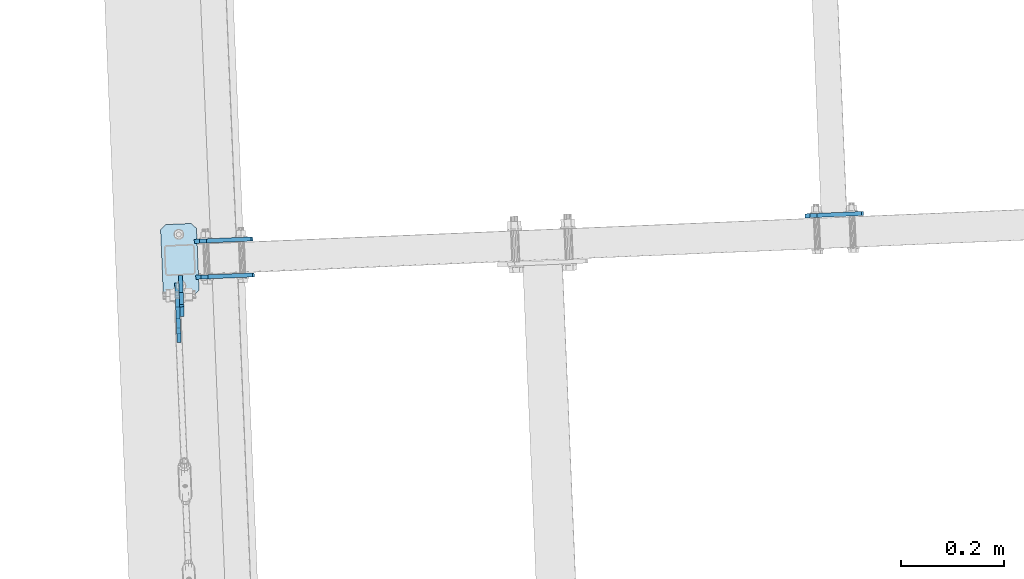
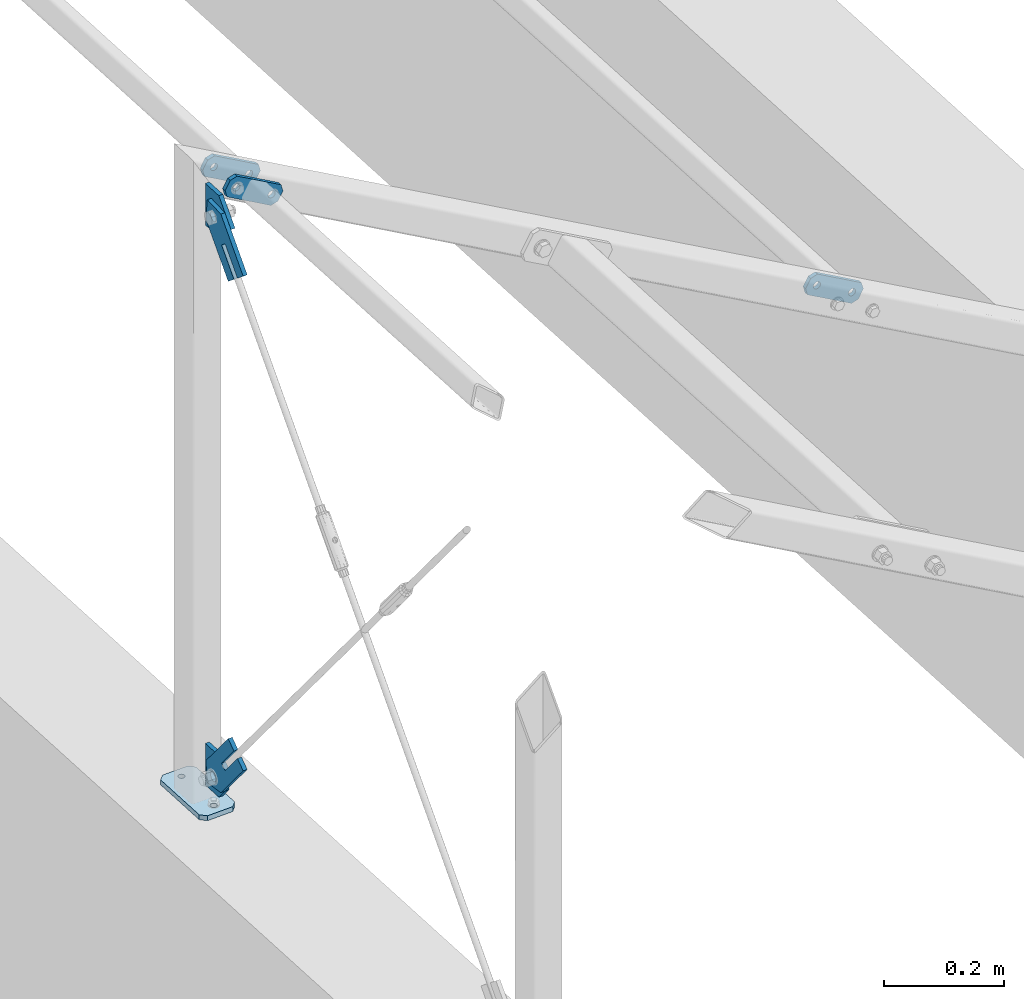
# One storey, part 46 of 288: 8 plates, 35 openings.
"""IFC2X3 building model written with IfcOpenShell, lengths in millimetres."""

from ifc_helpers import new_model, entity, si_unit, converted_unit, point, frame, frame_2d, origin, origin_with_axes, origin_2d_with_axis, place, context, project, spatial, polyline, circle_curve, line_curve, trimmed, segment, composite_curve, circle, outline, extrude, material, layer, layer_set, element, save


model = new_model("IFC2X3")

# Units and contexts
model_context = context("Model", 3, precision=1e-09, world=origin_with_axes())
ifc_project = project(units=[si_unit("LENGTHUNIT", "METRE", prefix="MILLI"), si_unit("AREAUNIT", "SQUARE_METRE"), si_unit("VOLUMEUNIT", "CUBIC_METRE"), converted_unit("PLANEANGLEUNIT", "DEGREE", entity("IfcPlaneAngleMeasure", 0.01745329), si_unit("PLANEANGLEUNIT", "RADIAN"), dimensions=[0, 0, 0, 0, 0, 0, 0])], contexts=[model_context])

# Site, building, storey
site_placement = place(None, origin_with_axes())
site = spatial("IfcSite", under=ifc_project, at=site_placement, Name="Remont ?wietlik?w nad MC w NCPP w Opolu", CompositionType="ELEMENT")
building_placement = place(site_placement, origin_with_axes())
building = spatial("IfcBuilding", under=site, at=building_placement, Name="Konstrukcja 1", CompositionType="ELEMENT")
storey_placement = place(building_placement, origin_with_axes())
storey = spatial("IfcBuildingStorey", under=building, at=storey_placement, Name="Default Storey", CompositionType="ELEMENT", Elevation=0.0)

# Plate, openings
ifc_material = material(Name="S235")
ifc_layer_1 = layer(ifc_material, 8.0)
ifc_layer_set_1 = layer_set([ifc_layer_1], Name="S235")
plate_1_placement = place(None, frame((-439.674445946, 8131.315570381, 1232.680042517), z_axis=(-0.041662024, 0.999131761, 1.7472e-05), x_axis=(0.499566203, 0.020815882, 0.866025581)))
plate_1 = element("IfcPlate", 1, at=plate_1_placement, inside=storey, material=ifc_layer_set_1, Name="-", ObjectType="-", context=model_context, shape_type="SweptSolid", body=[
    extrude(outline(polyline([(0.0, 0.0), (40.0, 0.0), (40.0, 120.0), (0.0, 120.0), (0.0, 0.0)])), origin_with_axes(), (0.0, 0.0, 1.0), 8.0),
])
opening_1_placement = place(plate_1_placement, frame((0.0, 0.0, -0.01), z_axis=(0.0, 0.0, 1.0), x_axis=(1.0, 0.0, 0.0)))
element("IfcOpeningElement", 2, at=opening_1_placement, cuts=plate_1, ObjectType="Opening", context=model_context, shape_type="SweptSolid", body=[
    extrude(outline(composite_curve([segment(trimmed(line_curve((40.0, 0.0), (0.0, 1.0), 10.0), [point((40.0, 0.0))], [point((40.0, 10.0))], True, "CARTESIAN"), True, "CONTINUOUS"), segment(trimmed(circle_curve(frame_2d((30.0, 10.0), x_axis=(-1.0, 0.0)), 10.0), [point((40.0, 10.0))], [point((30.0, 0.0))], False, "CARTESIAN"), True, "CONTINUOUS"), segment(trimmed(line_curve((30.0, 0.0), (1.0, 0.0), 10.0), [point((30.0, 0.0))], [point((40.0, 0.0))], True, "CARTESIAN"), True, "CONTINUOUS")], self_intersect=False)), origin(), (0.0, 0.0, 1.0), 8.02),
])
opening_2_placement = place(plate_1_placement, frame((0.0, 0.0, -0.01), z_axis=(0.0, 0.0, 1.0), x_axis=(1.0, 0.0, 0.0)))
element("IfcOpeningElement", 3, at=opening_2_placement, cuts=plate_1, ObjectType="Opening", context=model_context, shape_type="SweptSolid", body=[
    extrude(outline(composite_curve([segment(trimmed(line_curve((0.0, 0.0), (1.0, 0.0), 10.0), [point((0.0, 0.0))], [point((10.0, 0.0))], True, "CARTESIAN"), True, "CONTINUOUS"), segment(trimmed(circle_curve(frame_2d((10.0, 10.0), x_axis=(-1.0, 0.0)), 10.0), [point((10.0, 0.0))], [point((0.0, 10.0))], False, "CARTESIAN"), True, "CONTINUOUS"), segment(trimmed(line_curve((0.0, 10.0), (0.0, -1.0), 10.0), [point((0.0, 10.0))], [point((0.0, 0.0))], True, "CARTESIAN"), True, "CONTINUOUS")], self_intersect=False)), origin(), (0.0, 0.0, 1.0), 8.02),
])
opening_3_placement = place(plate_1_placement, frame((0.0, 0.0, -0.01), z_axis=(0.0, 0.0, 1.0), x_axis=(1.0, 0.0, 0.0)))
element("IfcOpeningElement", 4, at=opening_3_placement, cuts=plate_1, ObjectType="Opening", context=model_context, shape_type="SweptSolid", body=[
    extrude(outline(composite_curve([segment(trimmed(line_curve((40.0, 120.0), (-1.0, 0.0), 10.0), [point((40.0, 120.0))], [point((30.0, 120.0))], True, "CARTESIAN"), True, "CONTINUOUS"), segment(trimmed(circle_curve(frame_2d((30.0, 110.0), x_axis=(-1.0, 0.0)), 10.0), [point((30.0, 120.0))], [point((40.0, 110.0))], False, "CARTESIAN"), True, "CONTINUOUS"), segment(trimmed(line_curve((40.0, 110.0), (0.0, 1.0), 10.0), [point((40.0, 110.0))], [point((40.0, 120.0))], True, "CARTESIAN"), True, "CONTINUOUS")], self_intersect=False)), origin(), (0.0, 0.0, 1.0), 8.02),
])
opening_4_placement = place(plate_1_placement, frame((0.0, 0.0, -0.01), z_axis=(0.0, 0.0, 1.0), x_axis=(1.0, 0.0, 0.0)))
element("IfcOpeningElement", 5, at=opening_4_placement, cuts=plate_1, ObjectType="Opening", context=model_context, shape_type="SweptSolid", body=[
    extrude(outline(composite_curve([segment(trimmed(line_curve((0.0, 120.0), (0.0, -1.0), 10.0), [point((0.0, 120.0))], [point((0.0, 110.0))], True, "CARTESIAN"), True, "CONTINUOUS"), segment(trimmed(circle_curve(frame_2d((10.0, 110.0), x_axis=(-1.0, 0.0)), 10.0), [point((0.0, 110.0))], [point((10.0, 120.0))], False, "CARTESIAN"), True, "CONTINUOUS"), segment(trimmed(line_curve((10.0, 120.0), (-1.0, 0.0), 10.0), [point((10.0, 120.0))], [point((0.0, 120.0))], True, "CARTESIAN"), True, "CONTINUOUS")], self_intersect=False)), origin(), (0.0, 0.0, 1.0), 8.02),
])
opening_5_placement = place(plate_1_placement, frame((12.999, 20.0, 8.5), z_axis=(0.0, 0.0, 1.0), x_axis=(1.0, 0.0, 0.0)))
element("IfcOpeningElement", 6, at=opening_5_placement, cuts=plate_1, ObjectType="Opening", context=model_context, shape_type="SweptSolid", body=[
    extrude(circle(Radius=7.001, at=frame_2d((7.001, 0.0), x_axis=(1.0, 0.0))), origin(), (0.0, 0.0, -1.0), 9.0),
])
opening_6_placement = place(plate_1_placement, frame((12.999, 100.0, 8.5), z_axis=(0.0, 0.0, 1.0), x_axis=(1.0, 0.0, 0.0)))
element("IfcOpeningElement", 7, at=opening_6_placement, cuts=plate_1, ObjectType="Opening", context=model_context, shape_type="SweptSolid", body=[
    extrude(circle(Radius=7.001, at=frame_2d((7.001, 0.0), x_axis=(1.0, 0.0))), origin(), (0.0, 0.0, -1.0), 9.0),
])

plate_2_placement = place(None, frame((748.024592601, 8180.852517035, 546.390618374), z_axis=(-0.041662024, 0.999131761, 1.7472e-05), x_axis=(0.499566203, 0.020815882, 0.866025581)))
plate_2 = element("IfcPlate", 8, at=plate_2_placement, inside=storey, material=ifc_layer_set_1, Name="-", ObjectType="-", context=model_context, shape_type="SweptSolid", body=[
    extrude(outline(polyline([(0.0, 0.0), (40.0, 0.0), (40.0, 120.0), (0.0, 120.0), (0.0, 0.0)])), origin_with_axes(), (0.0, 0.0, 1.0), 8.0),
])
opening_7_placement = place(plate_2_placement, frame((0.0, 0.0, -0.01), z_axis=(0.0, 0.0, 1.0), x_axis=(1.0, 0.0, 0.0)))
element("IfcOpeningElement", 9, at=opening_7_placement, cuts=plate_2, ObjectType="Opening", context=model_context, shape_type="SweptSolid", body=[
    extrude(outline(composite_curve([segment(trimmed(line_curve((40.0, 0.0), (0.0, 1.0), 10.0), [point((40.0, 0.0))], [point((40.0, 10.0))], True, "CARTESIAN"), True, "CONTINUOUS"), segment(trimmed(circle_curve(frame_2d((30.0, 10.0), x_axis=(-1.0, 0.0)), 10.0), [point((40.0, 10.0))], [point((30.0, 0.0))], False, "CARTESIAN"), True, "CONTINUOUS"), segment(trimmed(line_curve((30.0, 0.0), (1.0, 0.0), 10.0), [point((30.0, 0.0))], [point((40.0, 0.0))], True, "CARTESIAN"), True, "CONTINUOUS")], self_intersect=False)), origin(), (0.0, 0.0, 1.0), 8.02),
])
opening_8_placement = place(plate_2_placement, frame((0.0, 0.0, -0.01), z_axis=(0.0, 0.0, 1.0), x_axis=(1.0, 0.0, 0.0)))
element("IfcOpeningElement", 10, at=opening_8_placement, cuts=plate_2, ObjectType="Opening", context=model_context, shape_type="SweptSolid", body=[
    extrude(outline(composite_curve([segment(trimmed(line_curve((0.0, 0.0), (1.0, 0.0), 10.0), [point((0.0, 0.0))], [point((10.0, 0.0))], True, "CARTESIAN"), True, "CONTINUOUS"), segment(trimmed(circle_curve(frame_2d((10.0, 10.0), x_axis=(-1.0, 0.0)), 10.0), [point((10.0, 0.0))], [point((0.0, 10.0))], False, "CARTESIAN"), True, "CONTINUOUS"), segment(trimmed(line_curve((0.0, 10.0), (0.0, -1.0), 10.0), [point((0.0, 10.0))], [point((0.0, 0.0))], True, "CARTESIAN"), True, "CONTINUOUS")], self_intersect=False)), origin(), (0.0, 0.0, 1.0), 8.02),
])
opening_9_placement = place(plate_2_placement, frame((0.0, 0.0, -0.01), z_axis=(0.0, 0.0, 1.0), x_axis=(1.0, 0.0, 0.0)))
element("IfcOpeningElement", 11, at=opening_9_placement, cuts=plate_2, ObjectType="Opening", context=model_context, shape_type="SweptSolid", body=[
    extrude(outline(composite_curve([segment(trimmed(line_curve((40.0, 120.0), (-1.0, 0.0), 10.0), [point((40.0, 120.0))], [point((30.0, 120.0))], True, "CARTESIAN"), True, "CONTINUOUS"), segment(trimmed(circle_curve(frame_2d((30.0, 110.0), x_axis=(-1.0, 0.0)), 10.0), [point((30.0, 120.0))], [point((40.0, 110.0))], False, "CARTESIAN"), True, "CONTINUOUS"), segment(trimmed(line_curve((40.0, 110.0), (0.0, 1.0), 10.0), [point((40.0, 110.0))], [point((40.0, 120.0))], True, "CARTESIAN"), True, "CONTINUOUS")], self_intersect=False)), origin(), (0.0, 0.0, 1.0), 8.02),
])
opening_10_placement = place(plate_2_placement, frame((0.0, 0.0, -0.01), z_axis=(0.0, 0.0, 1.0), x_axis=(1.0, 0.0, 0.0)))
element("IfcOpeningElement", 12, at=opening_10_placement, cuts=plate_2, ObjectType="Opening", context=model_context, shape_type="SweptSolid", body=[
    extrude(outline(composite_curve([segment(trimmed(line_curve((0.0, 120.0), (0.0, -1.0), 10.0), [point((0.0, 120.0))], [point((0.0, 110.0))], True, "CARTESIAN"), True, "CONTINUOUS"), segment(trimmed(circle_curve(frame_2d((10.0, 110.0), x_axis=(-1.0, 0.0)), 10.0), [point((0.0, 110.0))], [point((10.0, 120.0))], False, "CARTESIAN"), True, "CONTINUOUS"), segment(trimmed(line_curve((10.0, 120.0), (-1.0, 0.0), 10.0), [point((10.0, 120.0))], [point((0.0, 120.0))], True, "CARTESIAN"), True, "CONTINUOUS")], self_intersect=False)), origin(), (0.0, 0.0, 1.0), 8.02),
])
opening_11_placement = place(plate_2_placement, frame((19.99842578, 27.001033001, 8.499903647), z_axis=(-2.0054e-05, 4.2e-07, 1.0), x_axis=(1.0, 0.0, 2.0054e-05)))
element("IfcOpeningElement", 13, at=opening_11_placement, cuts=plate_2, ObjectType="Opening", context=model_context, shape_type="SweptSolid", body=[
    extrude(circle(Radius=7.001, at=frame_2d((-4e-09, -7.001), x_axis=(1.0, 0.0))), origin(), (0.0, 0.0, -1.0), 9.000033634),
])
opening_12_placement = place(plate_2_placement, frame((19.998425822, 107.001033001, 8.499870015), z_axis=(-2.0054e-05, 4.2e-07, 1.0), x_axis=(1.0, 0.0, 2.0054e-05)))
element("IfcOpeningElement", 14, at=opening_12_placement, cuts=plate_2, ObjectType="Opening", context=model_context, shape_type="SweptSolid", body=[
    extrude(circle(Radius=7.001, at=frame_2d((-4e-09, -7.001), x_axis=(1.0, 0.0))), origin(), (0.0, 0.0, -1.0), 9.000033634),
])

ifc_layer_2 = layer(ifc_material, 10.0)
ifc_layer_set_2 = layer_set([ifc_layer_2], Name="S235")
plate_3_placement = place(None, frame((-425.02917401, 8030.838177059, 10.000000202), z_axis=(0.0, 0.0, -1.0), x_axis=(-0.999131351, -0.041671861, 0.0)))
plate_3 = element("IfcPlate", 15, at=plate_3_placement, inside=storey, material=ifc_layer_set_2, Name="Baseplate", ObjectType="Baseplate", context=model_context, shape_type="SweptSolid", body=[
    extrude(outline(polyline([(0.0, 0.0), (70.0, 0.0), (70.0, 140.0), (0.0, 140.0), (0.0, 0.0)])), origin_with_axes(), (0.0, 0.0, 1.0), 10.0),
])
opening_13_placement = place(plate_3_placement, frame((0.0, 0.0, -0.01), z_axis=(0.0, 0.0, 1.0), x_axis=(1.0, 0.0, 0.0)))
element("IfcOpeningElement", 16, at=opening_13_placement, cuts=plate_3, ObjectType="Opening", context=model_context, shape_type="SweptSolid", body=[
    extrude(outline(composite_curve([segment(trimmed(line_curve((70.0, 0.0), (0.0, 1.0), 10.0), [point((70.0, 0.0))], [point((70.0, 10.0))], True, "CARTESIAN"), True, "CONTINUOUS"), segment(trimmed(circle_curve(frame_2d((60.0, 10.0), x_axis=(-1.0, 0.0)), 10.0), [point((70.0, 10.0))], [point((60.0, 0.0))], False, "CARTESIAN"), True, "CONTINUOUS"), segment(trimmed(line_curve((60.0, 0.0), (1.0, 0.0), 10.0), [point((60.0, 0.0))], [point((70.0, 0.0))], True, "CARTESIAN"), True, "CONTINUOUS")], self_intersect=False)), origin(), (0.0, 0.0, 1.0), 10.02),
])
opening_14_placement = place(plate_3_placement, frame((0.0, 0.0, -0.01), z_axis=(0.0, 0.0, 1.0), x_axis=(1.0, 0.0, 0.0)))
element("IfcOpeningElement", 17, at=opening_14_placement, cuts=plate_3, ObjectType="Opening", context=model_context, shape_type="SweptSolid", body=[
    extrude(outline(composite_curve([segment(trimmed(line_curve((0.0, 0.0), (1.0, 0.0), 10.0), [point((0.0, 0.0))], [point((10.0, 0.0))], True, "CARTESIAN"), True, "CONTINUOUS"), segment(trimmed(circle_curve(frame_2d((10.0, 10.0), x_axis=(-1.0, 0.0)), 10.0), [point((10.0, 0.0))], [point((0.0, 10.0))], False, "CARTESIAN"), True, "CONTINUOUS"), segment(trimmed(line_curve((0.0, 10.0), (0.0, -1.0), 10.0), [point((0.0, 10.0))], [point((0.0, 0.0))], True, "CARTESIAN"), True, "CONTINUOUS")], self_intersect=False)), origin(), (0.0, 0.0, 1.0), 10.02),
])
opening_15_placement = place(plate_3_placement, frame((0.0, 0.0, -0.01), z_axis=(0.0, 0.0, 1.0), x_axis=(1.0, 0.0, 0.0)))
element("IfcOpeningElement", 18, at=opening_15_placement, cuts=plate_3, ObjectType="Opening", context=model_context, shape_type="SweptSolid", body=[
    extrude(outline(composite_curve([segment(trimmed(line_curve((70.0, 140.0), (-1.0, 0.0), 10.0), [point((70.0, 140.0))], [point((60.0, 140.0))], True, "CARTESIAN"), True, "CONTINUOUS"), segment(trimmed(circle_curve(frame_2d((60.0, 130.0), x_axis=(-1.0, 0.0)), 10.0), [point((60.0, 140.0))], [point((70.0, 130.0))], False, "CARTESIAN"), True, "CONTINUOUS"), segment(trimmed(line_curve((70.0, 130.0), (0.0, 1.0), 10.0), [point((70.0, 130.0))], [point((70.0, 140.0))], True, "CARTESIAN"), True, "CONTINUOUS")], self_intersect=False)), origin(), (0.0, 0.0, 1.0), 10.02),
])
opening_16_placement = place(plate_3_placement, frame((0.0, 0.0, -0.01), z_axis=(0.0, 0.0, 1.0), x_axis=(1.0, 0.0, 0.0)))
element("IfcOpeningElement", 19, at=opening_16_placement, cuts=plate_3, ObjectType="Opening", context=model_context, shape_type="SweptSolid", body=[
    extrude(outline(composite_curve([segment(trimmed(line_curve((0.0, 140.0), (0.0, -1.0), 10.0), [point((0.0, 140.0))], [point((0.0, 130.0))], True, "CARTESIAN"), True, "CONTINUOUS"), segment(trimmed(circle_curve(frame_2d((10.0, 130.0), x_axis=(-1.0, 0.0)), 10.0), [point((0.0, 130.0))], [point((10.0, 140.0))], False, "CARTESIAN"), True, "CONTINUOUS"), segment(trimmed(line_curve((10.0, 140.0), (-1.0, 0.0), 10.0), [point((10.0, 140.0))], [point((0.0, 140.0))], True, "CARTESIAN"), True, "CONTINUOUS")], self_intersect=False)), origin(), (0.0, 0.0, 1.0), 10.02),
])
opening_17_placement = place(plate_3_placement, frame((35.0, 120.0, 10.5), z_axis=(0.0, 0.0, -1.0), x_axis=(1.0, 0.0, 0.0)))
element("IfcOpeningElement", 20, at=opening_17_placement, cuts=plate_3, ObjectType="Opening", context=model_context, shape_type="SweptSolid", body=[
    extrude(circle(Radius=6.001, at=origin_2d_with_axis()), origin(), (0.0, 0.0, 1.0), 11.0),
])
opening_18_placement = place(plate_3_placement, frame((35.0, 20.0, 10.5), z_axis=(0.0, 0.0, -1.0), x_axis=(1.0, 0.0, 0.0)))
element("IfcOpeningElement", 21, at=opening_18_placement, cuts=plate_3, ObjectType="Opening", context=model_context, shape_type="SweptSolid", body=[
    extrude(circle(Radius=6.001, at=origin_2d_with_axis()), origin(), (0.0, 0.0, 1.0), 11.0),
])

plate_4_placement = place(None, frame((-436.758104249, 8061.376347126, 1232.678819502), z_axis=(-0.041662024, 0.999131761, 1.7472e-05), x_axis=(0.499566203, 0.020815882, 0.866025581)))
plate_4 = element("IfcPlate", 22, at=plate_4_placement, inside=storey, material=ifc_layer_set_1, Name="-", ObjectType="-", context=model_context, shape_type="SweptSolid", body=[
    extrude(outline(polyline([(0.0, 0.0), (40.0, 0.0), (40.0, 120.0), (0.0, 120.0), (0.0, 0.0)])), origin_with_axes(), (0.0, 0.0, 1.0), 8.0),
])
opening_19_placement = place(plate_4_placement, frame((0.0, 0.0, -0.01), z_axis=(0.0, 0.0, 1.0), x_axis=(1.0, 0.0, 0.0)))
element("IfcOpeningElement", 23, at=opening_19_placement, cuts=plate_4, ObjectType="Opening", context=model_context, shape_type="SweptSolid", body=[
    extrude(outline(composite_curve([segment(trimmed(line_curve((40.0, 0.0), (0.0, 1.0), 10.0), [point((40.0, 0.0))], [point((40.0, 10.0))], True, "CARTESIAN"), True, "CONTINUOUS"), segment(trimmed(circle_curve(frame_2d((30.0, 10.0), x_axis=(-1.0, 0.0)), 10.0), [point((40.0, 10.0))], [point((30.0, 0.0))], False, "CARTESIAN"), True, "CONTINUOUS"), segment(trimmed(line_curve((30.0, 0.0), (1.0, 0.0), 10.0), [point((30.0, 0.0))], [point((40.0, 0.0))], True, "CARTESIAN"), True, "CONTINUOUS")], self_intersect=False)), origin(), (0.0, 0.0, 1.0), 8.02),
])
opening_20_placement = place(plate_4_placement, frame((0.0, 0.0, -0.01), z_axis=(0.0, 0.0, 1.0), x_axis=(1.0, 0.0, 0.0)))
element("IfcOpeningElement", 24, at=opening_20_placement, cuts=plate_4, ObjectType="Opening", context=model_context, shape_type="SweptSolid", body=[
    extrude(outline(composite_curve([segment(trimmed(line_curve((0.0, 0.0), (1.0, 0.0), 10.0), [point((0.0, 0.0))], [point((10.0, 0.0))], True, "CARTESIAN"), True, "CONTINUOUS"), segment(trimmed(circle_curve(frame_2d((10.0, 10.0), x_axis=(-1.0, 0.0)), 10.0), [point((10.0, 0.0))], [point((0.0, 10.0))], False, "CARTESIAN"), True, "CONTINUOUS"), segment(trimmed(line_curve((0.0, 10.0), (0.0, -1.0), 10.0), [point((0.0, 10.0))], [point((0.0, 0.0))], True, "CARTESIAN"), True, "CONTINUOUS")], self_intersect=False)), origin(), (0.0, 0.0, 1.0), 8.02),
])
opening_21_placement = place(plate_4_placement, frame((0.0, 0.0, -0.01), z_axis=(0.0, 0.0, 1.0), x_axis=(1.0, 0.0, 0.0)))
element("IfcOpeningElement", 25, at=opening_21_placement, cuts=plate_4, ObjectType="Opening", context=model_context, shape_type="SweptSolid", body=[
    extrude(outline(composite_curve([segment(trimmed(line_curve((40.0, 120.0), (-1.0, 0.0), 10.0), [point((40.0, 120.0))], [point((30.0, 120.0))], True, "CARTESIAN"), True, "CONTINUOUS"), segment(trimmed(circle_curve(frame_2d((30.0, 110.0), x_axis=(-1.0, 0.0)), 10.0), [point((30.0, 120.0))], [point((40.0, 110.0))], False, "CARTESIAN"), True, "CONTINUOUS"), segment(trimmed(line_curve((40.0, 110.0), (0.0, 1.0), 10.0), [point((40.0, 110.0))], [point((40.0, 120.0))], True, "CARTESIAN"), True, "CONTINUOUS")], self_intersect=False)), origin(), (0.0, 0.0, 1.0), 8.02),
])
opening_22_placement = place(plate_4_placement, frame((0.0, 0.0, -0.01), z_axis=(0.0, 0.0, 1.0), x_axis=(1.0, 0.0, 0.0)))
element("IfcOpeningElement", 26, at=opening_22_placement, cuts=plate_4, ObjectType="Opening", context=model_context, shape_type="SweptSolid", body=[
    extrude(outline(composite_curve([segment(trimmed(line_curve((0.0, 120.0), (0.0, -1.0), 10.0), [point((0.0, 120.0))], [point((0.0, 110.0))], True, "CARTESIAN"), True, "CONTINUOUS"), segment(trimmed(circle_curve(frame_2d((10.0, 110.0), x_axis=(-1.0, 0.0)), 10.0), [point((0.0, 110.0))], [point((10.0, 120.0))], False, "CARTESIAN"), True, "CONTINUOUS"), segment(trimmed(line_curve((10.0, 120.0), (-1.0, 0.0), 10.0), [point((10.0, 120.0))], [point((0.0, 120.0))], True, "CARTESIAN"), True, "CONTINUOUS")], self_intersect=False)), origin(), (0.0, 0.0, 1.0), 8.02),
])
opening_23_placement = place(plate_4_placement, frame((12.999, 20.0, 8.5), z_axis=(0.0, 0.0, 1.0), x_axis=(1.0, 0.0, 0.0)))
element("IfcOpeningElement", 27, at=opening_23_placement, cuts=plate_4, ObjectType="Opening", context=model_context, shape_type="SweptSolid", body=[
    extrude(circle(Radius=7.001, at=frame_2d((7.001, 0.0), x_axis=(1.0, 0.0))), origin(), (0.0, 0.0, -1.0), 9.0),
])
opening_24_placement = place(plate_4_placement, frame((12.999, 100.0, 8.5), z_axis=(0.0, 0.0, 1.0), x_axis=(1.0, 0.0, 0.0)))
element("IfcOpeningElement", 28, at=opening_24_placement, cuts=plate_4, ObjectType="Opening", context=model_context, shape_type="SweptSolid", body=[
    extrude(circle(Radius=7.001, at=frame_2d((7.001, 0.0), x_axis=(1.0, 0.0))), origin(), (0.0, 0.0, -1.0), 9.0),
])

plate_5_placement = place(None, frame((-468.218383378, 7938.490323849, 1155.025614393), z_axis=(0.999131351, 0.041671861, 0.0), x_axis=(-0.032345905, 0.775530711, -0.630480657)))
plate_5 = element("IfcPlate", 29, at=plate_5_placement, inside=storey, material=ifc_layer_set_1, Name="Tab_Plate#2", ObjectType="Tab_Plate#2", context=model_context, shape_type="SweptSolid", body=[
    extrude(outline(polyline([(0.0, 0.0), (60.0, 0.0), (60.0, 140.0), (0.0, 140.0), (0.0, 0.0)])), origin_with_axes(), (0.0, 0.0, 1.0), 8.0),
])
opening_25_placement = place(plate_5_placement, frame((0.0, 0.0, -0.01), z_axis=(0.0, 0.0, 1.0), x_axis=(1.0, 0.0, 0.0)))
element("IfcOpeningElement", 30, at=opening_25_placement, cuts=plate_5, ObjectType="Opening", context=model_context, shape_type="SweptSolid", body=[
    extrude(outline(composite_curve([segment(trimmed(line_curve((60.0, 140.0), (-1.0, 0.0), 30.0), [point((60.0, 140.0))], [point((30.0, 140.0))], True, "CARTESIAN"), True, "CONTINUOUS"), segment(trimmed(circle_curve(frame_2d((30.0, 110.0), x_axis=(-1.0, 0.0)), 30.0), [point((30.0, 140.0))], [point((60.0, 110.0))], False, "CARTESIAN"), True, "CONTINUOUS"), segment(trimmed(line_curve((60.0, 110.0), (0.0, 1.0), 30.0), [point((60.0, 110.0))], [point((60.0, 140.0))], True, "CARTESIAN"), True, "CONTINUOUS")], self_intersect=False)), origin(), (0.0, 0.0, 1.0), 8.02),
])
opening_26_placement = place(plate_5_placement, frame((0.0, 0.0, -0.01), z_axis=(0.0, 0.0, 1.0), x_axis=(1.0, 0.0, 0.0)))
element("IfcOpeningElement", 31, at=opening_26_placement, cuts=plate_5, ObjectType="Opening", context=model_context, shape_type="SweptSolid", body=[
    extrude(outline(composite_curve([segment(trimmed(line_curve((0.0, 140.0), (0.0, -1.0), 30.0), [point((0.0, 140.0))], [point((0.0, 110.0))], True, "CARTESIAN"), True, "CONTINUOUS"), segment(trimmed(circle_curve(frame_2d((30.0, 110.0), x_axis=(-1.0, 0.0)), 30.0), [point((0.0, 110.0))], [point((30.0, 140.0))], False, "CARTESIAN"), True, "CONTINUOUS"), segment(trimmed(line_curve((30.0, 140.0), (-1.0, 0.0), 30.0), [point((30.0, 140.0))], [point((0.0, 140.0))], True, "CARTESIAN"), True, "CONTINUOUS")], self_intersect=False)), origin(), (0.0, 0.0, 1.0), 8.02),
])
opening_27_placement = place(plate_5_placement, frame((0.0, 0.0, 8.1), z_axis=(0.0, 0.0, -1.0), x_axis=(-0.77620496, -0.630480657, 0.0)))
element("IfcOpeningElement", 32, at=opening_27_placement, cuts=plate_5, ObjectType="Opening", context=model_context, shape_type="SweptSolid", body=[
    extrude(outline(polyline([(-56.311888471, 32.848854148), (-67.180310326, 24.020863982), (-28.719729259, -23.329191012), (-17.851307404, -14.501200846), (-56.311888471, 32.848854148)])), origin(), (0.0, 0.0, 1.0), 8.2),
])
opening_28_placement = place(plate_5_placement, frame((30.0, 110.0, 8.5), z_axis=(0.0, 0.0, -1.0), x_axis=(0.0, -1.0, 0.0)))
element("IfcOpeningElement", 33, at=opening_28_placement, cuts=plate_5, ObjectType="Opening", context=model_context, shape_type="SweptSolid", body=[
    extrude(circle(Radius=9.001, at=origin_2d_with_axis()), origin(), (0.0, 0.0, 1.0), 9.0),
])

# Plate, opening
plate_6_placement = place(None, frame((-456.274900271, 8036.08355553, 1179.293171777), z_axis=(-0.999131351, -0.041671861, 0.0), x_axis=(0.032345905, -0.775530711, 0.630480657)))
plate_6 = element("IfcPlate", 34, at=plate_6_placement, inside=storey, material=ifc_layer_set_1, Name="Gusset#2", ObjectType="Gusset#2", context=model_context, shape_type="SweptSolid", body=[
    extrude(outline(polyline([(0.0, 0.0), (60.0, 0.0), (60.0, 60.0), (27.24370937, 86.606642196), (-25.969575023, 21.094060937), (0.0, 0.0)])), origin_with_axes(), (0.0, 0.0, 1.0), 8.0),
])
opening_29_placement = place(plate_6_placement, frame((30.0, 30.0, -0.5), z_axis=(0.0, 0.0, 1.0), x_axis=(0.0, -1.0, 0.0)))
element("IfcOpeningElement", 35, at=opening_29_placement, cuts=plate_6, ObjectType="Opening", context=model_context, shape_type="SweptSolid", body=[
    extrude(circle(Radius=9.001, at=origin_2d_with_axis()), origin(), (0.0, 0.0, 1.0), 9.0),
])

# Plate, openings
plate_7_placement = place(None, frame((-460.225332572, 7938.823698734, 149.974386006), z_axis=(-0.999131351, -0.041671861, 0.0), x_axis=(-0.032345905, 0.775530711, 0.630480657)))
plate_7 = element("IfcPlate", 36, at=plate_7_placement, inside=storey, material=ifc_layer_set_1, Name="Tab_Plate#1", ObjectType="Tab_Plate#1", context=model_context, shape_type="SweptSolid", body=[
    extrude(outline(polyline([(0.0, 0.0), (60.0, 0.0), (60.0, 140.0), (0.0, 140.0), (0.0, 0.0)])), origin_with_axes(), (0.0, 0.0, 1.0), 8.0),
])
opening_30_placement = place(plate_7_placement, frame((0.0, 0.0, -0.01), z_axis=(0.0, 0.0, 1.0), x_axis=(1.0, 0.0, 0.0)))
element("IfcOpeningElement", 37, at=opening_30_placement, cuts=plate_7, ObjectType="Opening", context=model_context, shape_type="SweptSolid", body=[
    extrude(outline(composite_curve([segment(trimmed(line_curve((60.0, 140.0), (-1.0, 0.0), 30.0), [point((60.0, 140.0))], [point((30.0, 140.0))], True, "CARTESIAN"), True, "CONTINUOUS"), segment(trimmed(circle_curve(frame_2d((30.0, 110.0), x_axis=(-1.0, 0.0)), 30.0), [point((30.0, 140.0))], [point((60.0, 110.0))], False, "CARTESIAN"), True, "CONTINUOUS"), segment(trimmed(line_curve((60.0, 110.0), (0.0, 1.0), 30.0), [point((60.0, 110.0))], [point((60.0, 140.0))], True, "CARTESIAN"), True, "CONTINUOUS")], self_intersect=False)), origin(), (0.0, 0.0, 1.0), 8.02),
])
opening_31_placement = place(plate_7_placement, frame((0.0, 0.0, -0.01), z_axis=(0.0, 0.0, 1.0), x_axis=(1.0, 0.0, 0.0)))
element("IfcOpeningElement", 38, at=opening_31_placement, cuts=plate_7, ObjectType="Opening", context=model_context, shape_type="SweptSolid", body=[
    extrude(outline(composite_curve([segment(trimmed(line_curve((0.0, 140.0), (0.0, -1.0), 30.0), [point((0.0, 140.0))], [point((0.0, 110.0))], True, "CARTESIAN"), True, "CONTINUOUS"), segment(trimmed(circle_curve(frame_2d((30.0, 110.0), x_axis=(-1.0, 0.0)), 30.0), [point((0.0, 110.0))], [point((30.0, 140.0))], False, "CARTESIAN"), True, "CONTINUOUS"), segment(trimmed(line_curve((30.0, 140.0), (-1.0, 0.0), 30.0), [point((30.0, 140.0))], [point((0.0, 140.0))], True, "CARTESIAN"), True, "CONTINUOUS")], self_intersect=False)), origin(), (0.0, 0.0, 1.0), 8.02),
])
opening_32_placement = place(plate_7_placement, frame((0.0, 0.0, 8.1), z_axis=(0.0, 0.0, -1.0), x_axis=(0.77620496, 0.630480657, 0.0)))
element("IfcOpeningElement", 39, at=opening_32_placement, cuts=plate_7, ObjectType="Opening", context=model_context, shape_type="SweptSolid", body=[
    extrude(outline(polyline([(56.311888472, -32.848854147), (67.180310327, -24.02086398), (28.719729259, 23.329191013), (17.851307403, 14.501200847), (56.311888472, -32.848854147)])), origin(), (0.0, 0.0, 1.0), 8.2),
])
opening_33_placement = place(plate_7_placement, frame((30.0, 110.0, 8.5), z_axis=(0.0, 0.0, -1.0), x_axis=(0.0, -1.0, 0.0)))
element("IfcOpeningElement", 40, at=opening_33_placement, cuts=plate_7, ObjectType="Opening", context=model_context, shape_type="SweptSolid", body=[
    extrude(circle(Radius=9.001, at=origin_2d_with_axis()), origin(), (0.0, 0.0, 1.0), 9.0),
])

plate_8_placement = place(None, frame((-464.267951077, 8035.750180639, 125.706828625), z_axis=(0.999131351, 0.041671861, 0.0), x_axis=(0.032345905, -0.775530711, -0.630480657)))
plate_8 = element("IfcPlate", 41, at=plate_8_placement, inside=storey, material=ifc_layer_set_1, Name="Gusset#1", ObjectType="Gusset#1", context=model_context, shape_type="SweptSolid", body=[
    extrude(outline(polyline([(0.0, 0.0), (60.0, 0.0), (60.0, 60.0), (27.243709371, 86.606642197), (-25.969575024, 21.09406094), (0.0, 0.0)])), origin_with_axes(), (0.0, 0.0, 1.0), 8.0),
])
opening_34_placement = place(plate_8_placement, frame((30.0, 30.0, -0.5), z_axis=(0.0, 0.0, 1.0), x_axis=(0.0, -1.0, 0.0)))
element("IfcOpeningElement", 42, at=opening_34_placement, cuts=plate_8, ObjectType="Opening", context=model_context, shape_type="SweptSolid", body=[
    extrude(circle(Radius=9.001, at=origin_2d_with_axis()), origin(), (0.0, 0.0, 1.0), 9.0),
])
opening_35_placement = place(plate_8_placement, frame((0.0, 0.0, -0.01), z_axis=(0.0, 0.0, 1.0), x_axis=(1.0, 0.0, 0.0)))
element("IfcOpeningElement", 43, at=opening_35_placement, cuts=plate_8, ObjectType="Opening", context=model_context, shape_type="SweptSolid", body=[
    extrude(outline(composite_curve([segment(trimmed(line_curve((60.0, 0.0), (0.0, 1.0), 30.0), [point((60.0, 0.0))], [point((60.0, 30.0))], True, "CARTESIAN"), True, "CONTINUOUS"), segment(trimmed(circle_curve(frame_2d((30.0, 30.0), x_axis=(-1.0, 0.0)), 30.0), [point((60.0, 30.0))], [point((30.0, 0.0))], False, "CARTESIAN"), True, "CONTINUOUS"), segment(trimmed(line_curve((30.0, 0.0), (1.0, 0.0), 30.0), [point((30.0, 0.0))], [point((60.0, 0.0))], True, "CARTESIAN"), True, "CONTINUOUS")], self_intersect=False)), origin(), (0.0, 0.0, 1.0), 8.02),
])

save(model, "model.ifc")
